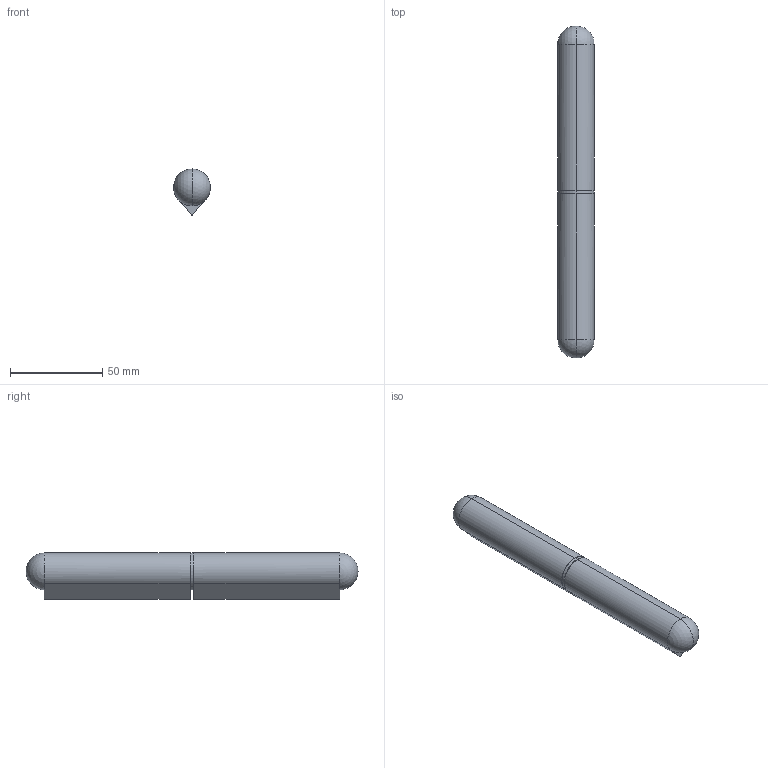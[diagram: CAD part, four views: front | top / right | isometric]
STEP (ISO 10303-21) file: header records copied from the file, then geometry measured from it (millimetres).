
FILE_DESCRIPTION (( 'STEP AP214' ), '1' );
FILE_NAME ('7011.00.180.STEP', '2021-01-21T03:28:52', ( '' ), ( '' ), 'SwSTEP 2.0', 'SolidWorks 2018', '' );
FILE_SCHEMA (( 'AUTOMOTIVE_DESIGN' ));
Length unit declared in the file: millimetre
Products named in the file (4): 7011.00.180; 7011.00-1_7004.00.180; 7011.00-2_7011.00.180; 7011.00-3_7011.00.180
Assembly tree (4 placements, depth 2):
  7011.00.180
    7011.00-1_7004.00.180  x2
    7011.00-2_7011.00.180
    7011.00-3_7011.00.180
Bounding box: 20 x 180 x 25 mm (x, y, z)
Volume: 58317.8 mm3; surface area: 25953.3 mm2
Topology: 4 solids, 4 shells, 45 faces, 104 edges, 63 vertices
Faces by surface type: cylinder 18, plane 13, torus 8, sphere 6
Entity records: 1100 total; most frequent: DIRECTION 188, CARTESIAN_POINT 142, ORIENTED_EDGE 128, AXIS2_PLACEMENT_3D 85, EDGE_CURVE 64, CIRCLE 46, VERTEX_POINT 39, EDGE_LOOP 35
